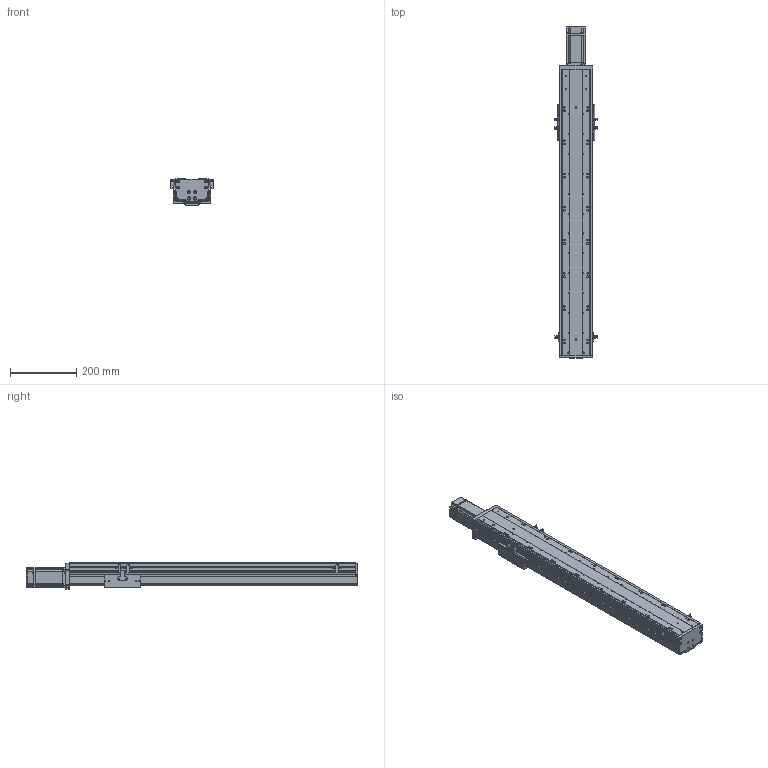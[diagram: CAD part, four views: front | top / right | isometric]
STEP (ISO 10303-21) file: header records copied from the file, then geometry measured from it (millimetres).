
FILE_DESCRIPTION (( 'STEP AP203' ), '1' );
FILE_NAME ('RY100FBS-L1610-300-MK(15双轨）.SLDASM_600.step', '2021-02-22T08:44:21', ( '盈信电脑' ), ( '东莞市道滘镇水果街19号' ), 'SwSTEP 2.0', 'SolidWorks 2012', '' );
FILE_SCHEMA (( 'CONFIG_CONTROL_DESIGN' ));
Length unit declared in the file: millimetre
Products named in the file (12): 覜茼ん672; RY100FBS-L1610-300-MK(15双轨）.SLDASM_600; RY100FBS-后盖板(15双轨）; RY100FB-遵嫖萇覜茼え; 侂狟400W侜督萇儂; 15; RY100FBS-300-上盖板(15双轨）_600; RY100FBS-铝滑块（16丝杆）; RY100FBS-前盖板(15双轨）; 滅袉蝶18-15; 滅袉蝶18-24; RY100FBS-300型材底座(15双轨）_600
Assembly tree (18 placements, depth 3):
  RY100FBS-L1610-300-MK(15双轨）.SLDASM_600
    RY100FBS-300型材底座(15双轨）_600
    滅袉蝶18-24  x2
    滅袉蝶18-15
    RY100FBS-铝滑块（16丝杆）
    RY100FBS-300-上盖板(15双轨）_600
    RY100FBS-前盖板(15双轨）
    RY100FBS-后盖板(15双轨）
    侂狟400W侜督萇儂
      15
    RY100FB-遵嫖萇覜茼え  x2
    覜茼ん672  x6
Bounding box: 127.4 x 1000.5 x 78.75 mm (x, y, z)
Volume: 2377080.6 mm3; surface area: 825464.6 mm2
Topology: 17 solids, 17 shells, 1793 faces, 5101 edges, 3344 vertices
Faces by surface type: plane 873, cylinder 788, cone 114, bspline 18
Entity records: 47474 total; most frequent: CARTESIAN_POINT 9935, DIRECTION 7660, ORIENTED_EDGE 7546, EDGE_CURVE 3773, AXIS2_PLACEMENT_3D 2771, VERTEX_POINT 2492, LINE 2118, VECTOR 2118
